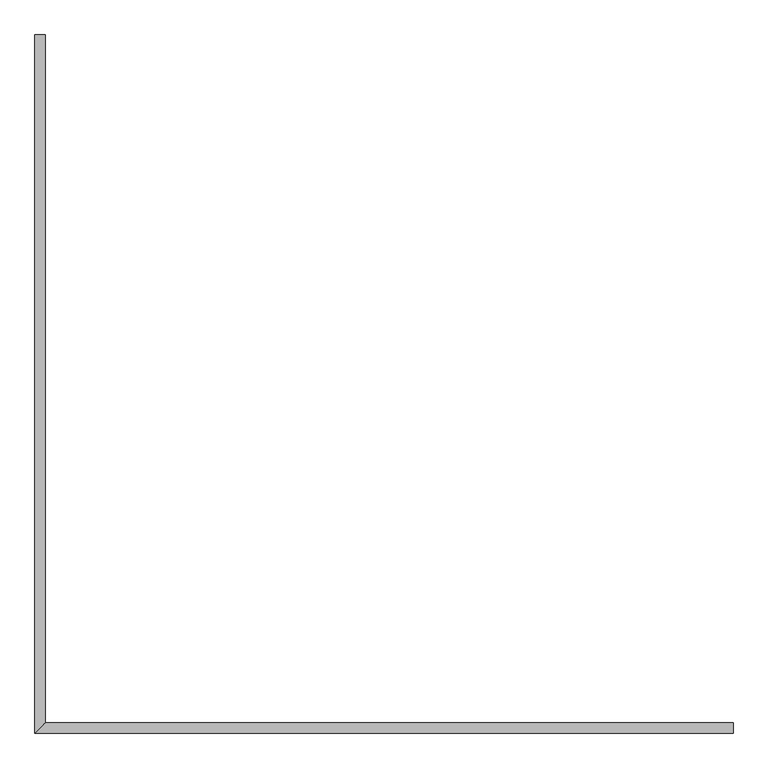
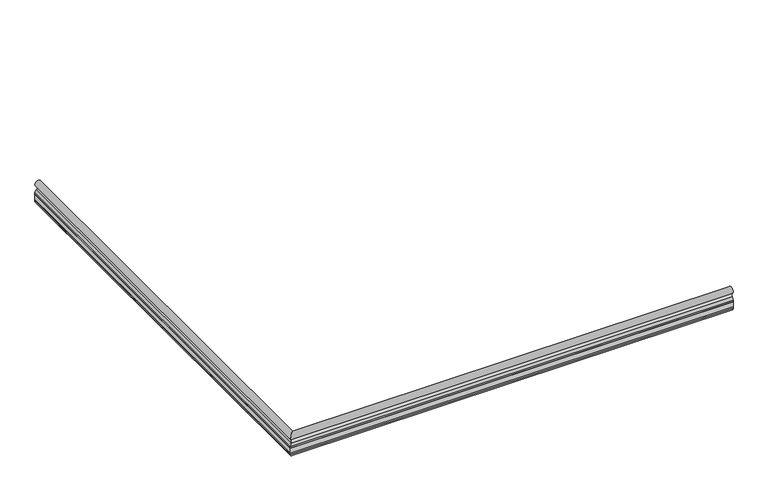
"""IFC4 building model written with IfcOpenShell, lengths in millimetres: railing geometry, Handrail-InPro-HR12-C-Prism-Metal_Bracket-Concrete."""

import ifcopenshell
import ifcopenshell.guid

model = None  # the IFC model being written
_history = None  # IfcOwnerHistory: only IFC2X3 demands one
_inside = {}  # id of a spatial element -> (the spatial element, [elements in it])
_under = {}  # id of a project, library or spatial element -> (it, [spatial elements below it])
_declared = {}  # id of a project -> (the project, [libraries it declares])
_typed = {}  # id of a type object -> (the type object, [elements of that type])
_made_of = {}  # id of a material, layer set ... -> (it, [elements and type objects made of it])


def new_model(schema):
    """Start an empty IFC model of exactly this schema.

    Asked for "IFC4X3", IfcOpenShell would pick the latest addendum, in which some entities
    have other attributes; the version numbers below select the first issue.
    IFC2X3 requires an IfcOwnerHistory on every rooted entity: one is made here for all.
    """
    global model, _history
    if schema == "IFC4X3":
        model = ifcopenshell.file(schema_version=(4, 3, 0, 0))
    else:
        model = ifcopenshell.file(schema=schema)
    _inside.clear()
    _under.clear()
    _declared.clear()
    _typed.clear()
    _made_of.clear()
    _history = None
    if model.schema == "IFC2X3":
        org = make("IfcOrganization", Name="unknown")
        user = make(
            "IfcPersonAndOrganization",
            ThePerson=make("IfcPerson", FamilyName="unknown"),
            TheOrganization=org,
        )
        app = make(
            "IfcApplication",
            ApplicationDeveloper=org,
            Version="unknown",
            ApplicationFullName="unknown",
            ApplicationIdentifier="unknown",
        )
        _history = make(
            "IfcOwnerHistory",
            OwningUser=user,
            OwningApplication=app,
            ChangeAction="ADDED",
            CreationDate=0,
        )
    return model


def make(cls, **values):
    """One entity of the class cls with the attributes given. An attribute that is None is left unset."""
    return model.create_entity(
        cls, **{name: value for name, value in values.items() if value is not None}
    )


def rooted(cls, **values):
    """An entity with a GlobalId (a new one), such as an element, a storey or a relation."""
    return make(cls, GlobalId=ifcopenshell.guid.new(), OwnerHistory=_history, **values)


def si_unit(unit_type, name, prefix=None):
    """IfcSIUnit, for example si_unit("LENGTHUNIT", "METRE", prefix="MILLI")."""
    return make("IfcSIUnit", UnitType=unit_type, Prefix=prefix, Name=name)


def assignment(units):
    """IfcUnitAssignment: the units of a project."""
    return None if units is None else make("IfcUnitAssignment", Units=units)


def point(xyz):
    """IfcCartesianPoint."""
    return None if xyz is None else make("IfcCartesianPoint", Coordinates=xyz)


def direction(xyz):
    """IfcDirection."""
    return None if xyz is None else make("IfcDirection", DirectionRatios=xyz)


def frame(location, z_axis=None, x_axis=None):
    """IfcAxis2Placement3D, a coordinate frame: its origin and axes. An axis left out is left unset."""
    return make(
        "IfcAxis2Placement3D",
        Location=point(location),
        Axis=direction(z_axis),
        RefDirection=direction(x_axis),
    )


def origin():
    """The frame at (0, 0, 0) with its axes left unset."""
    return frame((0.0, 0.0, 0.0))


def place(relative_to, where):
    """IfcLocalPlacement: puts the frame where relative to a parent placement (None: the world)."""
    return make(
        "IfcLocalPlacement", PlacementRelTo=relative_to, RelativePlacement=where
    )


def context(
    kind, dimensions, precision=None, world=None, true_north=None, identifier=None
):
    """IfcGeometricRepresentationContext, for example the 3D "Model" context."""
    return make(
        "IfcGeometricRepresentationContext",
        ContextIdentifier=identifier,
        ContextType=kind,
        CoordinateSpaceDimension=dimensions,
        Precision=precision,
        WorldCoordinateSystem=world,
        TrueNorth=true_north,
    )


def project(units=None, contexts=None):
    """IfcProject with its units and contexts."""
    return rooted(
        "IfcProject",
        Name="project",
        RepresentationContexts=contexts,
        UnitsInContext=assignment(units),
    )


def spatial(cls, under=None, at=None, **own):
    """A site, building, storey or space (cls), placed at a placement, below another one or the project."""
    s = rooted(cls, ObjectPlacement=at, **own)
    if under is not None:
        _under.setdefault(under.id(), (under, []))[1].append(s)
    return s


def polyline(points):
    """IfcPolyline through the points."""
    return make("IfcPolyline", Points=[point(p) for p in points])


def circle_curve(where, radius):
    """IfcCircle in the frame where."""
    return make("IfcCircle", Position=where, Radius=radius)


def ellipse_curve(where, semi_axis1, semi_axis2):
    """IfcEllipse in the frame where."""
    return make(
        "IfcEllipse", Position=where, SemiAxis1=semi_axis1, SemiAxis2=semi_axis2
    )


def faces_of(points, faces, orient=None, outer=None):
    """IfcFace entities. A face is a list of loops; a loop is a list of indices into points, from 0.

    orient and outer hold one flag for each loop. By default every Orientation is true, the
    first loop of a face is its IfcFaceOuterBound and the others are IfcFaceBound.
    """
    made = []
    for i, loops in enumerate(faces):
        bounds = []
        for j, loop in enumerate(loops):
            is_outer = j == 0 if outer is None else outer[i][j]
            bounds.append(
                make(
                    "IfcFaceOuterBound" if is_outer else "IfcFaceBound",
                    Bound=make("IfcPolyLoop", Polygon=[points[k] for k in loop]),
                    Orientation=True if orient is None else orient[i][j],
                )
            )
        made.append(make("IfcFace", Bounds=bounds))
    return made


def faceted_brep(points, faces, orient=None, outer=None, voids=None):
    """IfcFacetedBrep: a solid bounded by flat faces; with voids (closed shells), ...WithVoids."""
    shared = [point(p) for p in points]
    hull = make("IfcClosedShell", CfsFaces=faces_of(shared, faces, orient, outer))
    if voids is None:
        return make("IfcFacetedBrep", Outer=hull)
    return make(
        "IfcFacetedBrepWithVoids",
        Outer=hull,
        Voids=[
            make(cls, CfsFaces=faces_of(shared, fs, o, b)) for cls, fs, o, b in voids
        ],
    )


def shape(context_of_items, identifier, shape_type, items):
    """IfcShapeRepresentation: the items that make up one representation, for example the "Body"."""
    return make(
        "IfcShapeRepresentation",
        ContextOfItems=context_of_items,
        RepresentationIdentifier=identifier,
        RepresentationType=shape_type,
        Items=items,
    )


def source(mapping_origin, context_of_items, identifier, shape_type, items):
    """IfcRepresentationMap: a shape defined once, which mapped items show again and again."""
    return make(
        "IfcRepresentationMap",
        MappingOrigin=mapping_origin,
        MappedRepresentation=shape(context_of_items, identifier, shape_type, items),
    )


def transform(
    local_origin,
    x_axis=None,
    y_axis=None,
    z_axis=None,
    scale=None,
    scale2=None,
    scale3=None,
    uniform=True,
):
    """IfcCartesianTransformationOperator3D, or its non-uniform kind. x_axis, y_axis, z_axis: its Axis1, 2, 3."""
    if uniform:
        return make(
            "IfcCartesianTransformationOperator3D",
            Axis1=direction(x_axis),
            Axis2=direction(y_axis),
            LocalOrigin=point(local_origin),
            Scale=scale,
            Axis3=direction(z_axis),
        )
    return make(
        "IfcCartesianTransformationOperator3DnonUniform",
        Axis1=direction(x_axis),
        Axis2=direction(y_axis),
        LocalOrigin=point(local_origin),
        Scale=scale,
        Axis3=direction(z_axis),
        Scale2=scale2,
        Scale3=scale3,
    )


def mapped(mapping_source, mapping_target):
    """IfcMappedItem: shows the shape of a source again, moved by a transform."""
    return make(
        "IfcMappedItem", MappingSource=mapping_source, MappingTarget=mapping_target
    )


def made_of(thing, what):
    """Note that an element or type object is made of a material, layer set ...; save() writes the relation."""
    if what is not None:
        _made_of.setdefault(what.id(), (what, []))[1].append(thing)
    return thing


def element(
    cls,
    number,
    at=None,
    inside=None,
    cuts=None,
    type_object=None,
    material=None,
    context=None,
    identifier="Body",
    shape_type=None,
    held_by="IfcProductDefinitionShape",
    body=None,
    shapes=None,
    **own,
):
    """One element of the class cls, such as IfcWall. Its Tag is "e" and its number.

    at: its placement. inside: the storey or other place that contains it. cuts: it is an
    opening in that element (IfcRelVoidsElement). A single representation is given by context,
    identifier, shape_type and body (its items); several are given by shapes. held_by: the class
    of the entity that holds the representations. save() writes the other relations.
    """
    e = rooted(cls, Tag="e%d" % number, ObjectPlacement=at, **own)
    if body is not None:
        shapes = [shape(context, identifier, shape_type, body)]
    if shapes is not None:
        e.Representation = make(held_by, Representations=shapes)
    if inside is not None:
        _inside.setdefault(inside.id(), (inside, []))[1].append(e)
    if cuts is not None:
        rooted(
            "IfcRelVoidsElement", RelatingBuildingElement=cuts, RelatedOpeningElement=e
        )
    if type_object is not None:
        _typed.setdefault(type_object.id(), (type_object, []))[1].append(e)
    return made_of(e, material)


def aggregate(whole, parts):
    """IfcRelAggregates: a whole, such as a stair, and the parts it consists of."""
    return rooted("IfcRelAggregates", RelatingObject=whole, RelatedObjects=parts)


def save(model, path):
    """Write the relations noted so far, then the file.

    IfcRelAggregates (storeys below a building ...), IfcRelContainedInSpatialStructure (elements
    in a storey), IfcRelDefinesByType, IfcRelAssociatesMaterial and IfcRelDeclares: one each for
    every whole, place, type object, material and project.
    """
    for whole, parts in _under.values():
        aggregate(whole, parts)
    for where, things in _inside.values():
        rooted(
            "IfcRelContainedInSpatialStructure",
            RelatedElements=things,
            RelatingStructure=where,
        )
    for kind, things in _typed.values():
        rooted("IfcRelDefinesByType", RelatedObjects=things, RelatingType=kind)
    for what, things in _made_of.values():
        rooted("IfcRelAssociatesMaterial", RelatedObjects=things, RelatingMaterial=what)
    for by, libraries in _declared.values():
        rooted("IfcRelDeclares", RelatingContext=by, RelatedDefinitions=libraries)
    model.write(path)


def plane_surface(at):
    """IfcPlane: the flat surface through the origin of the frame at, square to its z axis."""
    return make("IfcPlane", Position=at)


def cylinder_surface(at, radius):
    """IfcCylindricalSurface: all points at the distance radius from the z axis of the frame at."""
    return make("IfcCylindricalSurface", Position=at, Radius=radius)


def revolved_surface(curve, axis_point, axis_direction):
    """IfcSurfaceOfRevolution: the curve turned about the line through axis_point along axis_direction."""
    return make(
        "IfcSurfaceOfRevolution",
        SweptCurve=make("IfcArbitraryOpenProfileDef", ProfileType="CURVE", Curve=curve),
        AxisPosition=make("IfcAxis1Placement", Location=point(axis_point), Axis=direction(axis_direction)),
    )


def advanced_brep(points, edges, surfaces, faces):
    """IfcAdvancedBrep: a solid bounded by faces that lie on surfaces and meet in shared edges.

    An edge is (start, end): straight between two places in points (the first is 0);
    or (start, end, curve); or (start, end, curve, False) where it runs against its curve.
    A face is (place in surfaces, loops), or (place, loops, False) where it looks against
    its surface's normal. A loop lists edges by number (the first is 1), with a minus sign
    where the edge is run from its end to its start. The first loop is the outer one.
    """
    corners = [point(p) for p in points]
    vertices = [make("IfcVertexPoint", VertexGeometry=c) for c in corners]
    made = []
    for start, end, *more in edges:
        made.append(
            make(
                "IfcEdgeCurve",
                EdgeStart=vertices[start],
                EdgeEnd=vertices[end],
                EdgeGeometry=more[0] if more else make("IfcPolyline", Points=[corners[start], corners[end]]),
                SameSense=more[1] if len(more) > 1 else True,
            )
        )
    hull = []
    for where, loops, *sense in faces:
        bounds = []
        for j, loop in enumerate(loops):
            ring = [make("IfcOrientedEdge", EdgeElement=made[abs(k) - 1], Orientation=k > 0) for k in loop]
            bounds.append(
                make(
                    "IfcFaceOuterBound" if j == 0 else "IfcFaceBound",
                    Bound=make("IfcEdgeLoop", EdgeList=ring),
                    Orientation=True,
                )
            )
        hull.append(make("IfcAdvancedFace", Bounds=bounds, FaceSurface=surfaces[where], SameSense=sense[0] if sense else True))
    return make("IfcAdvancedBrep", Outer=make("IfcClosedShell", CfsFaces=hull))


def railing_be0d8883(model_context):
    return source(origin(), model_context, "Body", "SolidModel", [
        advanced_brep(
        [(-5387.2882624, 4334.5443008, 774.7), (-5406.3382624, 4334.5443008, 793.75), (-5406.3382624, 4334.5443008, 801.6875), (-5399.9882624, 4334.5443008, 801.6875), (-5399.9882624, 4334.5443008, 834.628125), (-5406.3382624, 4334.5443008, 834.628125), (-5406.3382624, 4334.5443008, 842.9625), (-5398.3936731, 4334.5443008, 858.8375), (-5398.3936731, 4334.5443008, 879.871875), (-5376.1828517, 4334.5443008, 879.871875), (-5373.0007624, 4334.5443008, 863.203125), (-5368.2382624, 4334.5443008, 857.25), (-5368.2382624, 4334.5443008, 779.4625), (-5373.0007624, 4334.5443008, 774.7), (-5387.2882624, 1737.3943008, 774.7), (-5406.3382624, 1718.3443008, 793.75), (-5406.3382624, 1718.3443008, 801.6875), (-5399.9882624, 1724.6943008, 801.6875), (-5399.9882624, 1724.6943008, 834.628125), (-5406.3382624, 1718.3443008, 834.628125), (-5406.3382624, 1718.3443008, 842.9625), (-5398.3936731, 1726.2888901, 858.8375), (-5398.3936731, 1726.2888901, 879.871875), (-5376.1828517, 1748.4997115, 879.871875), (-5373.0007624, 1751.6818008, 863.203125), (-5368.2382624, 1756.4443008, 857.25), (-5368.2382624, 1756.4443008, 779.4625), (-5373.0007624, 1751.6818008, 774.7), (-2790.1382624, 1737.3943008, 774.7), (-2790.1382624, 1751.6818008, 774.7), (-2790.1382624, 1756.4443008, 779.4625), (-2790.1382624, 1756.4443008, 857.25), (-2790.1382624, 1751.6818008, 863.203125), (-2790.1382624, 1748.4997115, 879.871875), (-2790.1382624, 1726.2888901, 879.871875), (-2790.1382624, 1726.2888901, 858.8375), (-2790.1382624, 1718.3443008, 842.9625), (-2790.1382624, 1718.3443008, 834.628125), (-2790.1382624, 1724.6943008, 834.628125), (-2790.1382624, 1724.6943008, 801.6875), (-2790.1382624, 1718.3443008, 801.6875), (-2790.1382624, 1718.3443008, 793.75)],
        [
            (0, 1, circle_curve(frame((-5387.2882624, 4334.5443008, 793.75), z_axis=(0.0, 1.0, 0.0), x_axis=(-1.0, 0.0, 0.0)), 19.05)),
            (1, 2),
            (2, 3),
            (3, 4),
            (4, 5),
            (5, 6),
            (6, 7, circle_curve(frame((-5386.5051337, 4334.5443008, 842.9625), z_axis=(0.0, 1.0, 0.0), x_axis=(-1.0, 0.0, 0.0)), 19.8331287)),
            (7, 8, circle_curve(frame((-5405.5688296, 4334.5443008, 869.3546875), z_axis=(0.0, -1.0, 0.0), x_axis=(-1.0, 0.0, 0.0)), 12.7316183)),
            (8, 9, circle_curve(frame((-5387.2882624, 4334.5443008, 895.35), z_axis=(0.0, 1.0, 0.0), x_axis=(-1.0, 0.0, 0.0)), 19.05)),
            (9, 10, circle_curve(frame((-5370.1173629, 4334.5443008, 872.3916781), z_axis=(0.0, -1.0, 0.0), x_axis=(-1.0, 0.0, 0.0)), 9.6303427)),
            (10, 11, circle_curve(frame((-5375.0460741, 4334.5443008, 856.6853131), z_axis=(0.0, 1.0, 0.0), x_axis=(-1.0, 0.0, 0.0)), 6.8311911)),
            (11, 12),
            (12, 13, circle_curve(frame((-5373.0007624, 4334.5443008, 779.4625), z_axis=(0.0, 1.0, 0.0), x_axis=(-1.0, 0.0, 0.0)), 4.7625)),
            (13, 0),
            (0, 14),
            (14, 15, ellipse_curve(frame((-5387.2882624, 1737.3943008, 793.75), z_axis=(-0.7071067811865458, 0.7071067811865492, 0.0), x_axis=(0.7071067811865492, 0.7071067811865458, 0.0)), 26.9407684, 19.05)),
            (15, 1),
            (15, 16),
            (16, 2),
            (16, 17),
            (17, 3),
            (17, 18),
            (18, 4),
            (18, 19),
            (19, 5),
            (19, 20),
            (20, 6),
            (20, 21, ellipse_curve(frame((-5386.5051337, 1738.1774295, 842.9625), z_axis=(-0.7071067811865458, 0.7071067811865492, 0.0), x_axis=(0.7071067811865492, 0.7071067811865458, 0.0)), 28.0482796, 19.8331287)),
            (21, 7),
            (21, 22, ellipse_curve(frame((-5405.5688296, 1719.1137335, 869.3546875), z_axis=(0.7071067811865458, -0.7071067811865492, 0.0), x_axis=(-0.7071067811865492, -0.7071067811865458, 0.0)), 18.0052273, 12.7316183)),
            (22, 8),
            (22, 23, ellipse_curve(frame((-5387.2882624, 1737.3943008, 895.35), z_axis=(-0.7071067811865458, 0.7071067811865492, 0.0), x_axis=(0.7071067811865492, 0.7071067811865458, 0.0)), 26.9407684, 19.05)),
            (23, 9),
            (23, 24, ellipse_curve(frame((-5370.1173629, 1754.5652002, 872.3916781), z_axis=(0.7071067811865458, -0.7071067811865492, 0.0), x_axis=(-0.7071067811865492, -0.7071067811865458, 0.0)), 13.6193612, 9.6303427)),
            (24, 10),
            (24, 25, ellipse_curve(frame((-5375.0460741, 1749.6364891, 856.6853131), z_axis=(-0.7071067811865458, 0.7071067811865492, 0.0), x_axis=(0.7071067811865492, 0.7071067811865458, 0.0)), 9.6607631, 6.8311911)),
            (25, 11),
            (25, 26),
            (26, 12),
            (26, 27, ellipse_curve(frame((-5373.0007624, 1751.6818008, 779.4625), z_axis=(-0.7071067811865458, 0.7071067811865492, 0.0), x_axis=(0.7071067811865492, 0.7071067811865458, 0.0)), 6.7351921, 4.7625)),
            (27, 13),
            (27, 14),
            (28, 29),
            (29, 30, circle_curve(frame((-2790.1382624, 1751.6818008, 779.4625), z_axis=(1.0, 0.0, 0.0), x_axis=(0.0, -1.0, 0.0)), 4.7625)),
            (30, 31),
            (31, 32, circle_curve(frame((-2790.1382624, 1749.6364891, 856.6853131), z_axis=(1.0, 0.0, 0.0), x_axis=(0.0, -1.0, 0.0)), 6.8311911)),
            (32, 33, circle_curve(frame((-2790.1382624, 1754.5652002, 872.3916781), z_axis=(-1.0, 0.0, 0.0), x_axis=(0.0, -1.0, 0.0)), 9.6303427)),
            (33, 34, circle_curve(frame((-2790.1382624, 1737.3943008, 895.35), z_axis=(1.0, 0.0, 0.0), x_axis=(0.0, -1.0, 0.0)), 19.05)),
            (34, 35, circle_curve(frame((-2790.1382624, 1719.1137335, 869.3546875), z_axis=(-1.0, 0.0, 0.0), x_axis=(0.0, -1.0, 0.0)), 12.7316183)),
            (35, 36, circle_curve(frame((-2790.1382624, 1738.1774295, 842.9625), z_axis=(1.0, 0.0, 0.0), x_axis=(0.0, -1.0, 0.0)), 19.8331287)),
            (36, 37),
            (37, 38),
            (38, 39),
            (39, 40),
            (40, 41),
            (41, 28, circle_curve(frame((-2790.1382624, 1737.3943008, 793.75), z_axis=(1.0, 0.0, 0.0), x_axis=(0.0, -1.0, 0.0)), 19.05)),
            (14, 28),
            (41, 15),
            (40, 16),
            (39, 17),
            (38, 18),
            (37, 19),
            (36, 20),
            (35, 21),
            (34, 22),
            (33, 23),
            (32, 24),
            (31, 25),
            (30, 26),
            (29, 27),
        ],
        [
            plane_surface(frame((-5330.1382624, 4334.5443008, 914.4), z_axis=(0.0, 1.0, 0.0), x_axis=(0.0, 0.0, -1.0))),
            cylinder_surface(frame((-5387.2882624, 4334.5443008, 793.75), z_axis=(0.0, 1.0, 0.0), x_axis=(-1.0, 0.0, 0.0)), 19.05),
            plane_surface(frame((-5406.3382624, 4334.5443008, 793.75), z_axis=(-1.0, 0.0, 0.0), x_axis=(0.0, -1.0, 0.0))),
            plane_surface(frame((-5406.3382624, 4334.5443008, 801.6875), z_axis=(0.0, 0.0, 1.0), x_axis=(0.0, -1.0, 0.0))),
            plane_surface(frame((-5399.9882624, 4334.5443008, 801.6875), z_axis=(-1.0, 0.0, 0.0), x_axis=(0.0, -1.0, 0.0))),
            plane_surface(frame((-5399.9882624, 4334.5443008, 834.628125), z_axis=(0.0, 0.0, -1.0), x_axis=(0.0, -1.0, 0.0))),
            plane_surface(frame((-5406.3382624, 4334.5443008, 834.628125), z_axis=(-1.0, 0.0, 0.0), x_axis=(0.0, -1.0, 0.0))),
            cylinder_surface(frame((-5386.5051337, 4334.5443008, 842.9625), z_axis=(0.0, 1.0, 0.0), x_axis=(-1.0, 0.0, 0.0)), 19.8331287),
            revolved_surface(polyline([(-5418.3004479, 1706.382115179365, 869.3546875), (-5418.3004479, 4334.5443008, 869.3546875)]), (-5405.5688296, 4334.5443008, 869.3546875), (0.0, -1.0, 0.0)),
            cylinder_surface(frame((-5387.2882624, 4334.5443008, 895.35), z_axis=(0.0, 1.0, 0.0), x_axis=(-1.0, 0.0, 0.0)), 19.05),
            revolved_surface(polyline([(-5379.747705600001, 1744.9348575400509, 872.3916781), (-5379.747705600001, 4334.5443008, 872.3916781)]), (-5370.1173629, 4334.5443008, 872.3916781), (0.0, -1.0, 0.0)),
            cylinder_surface(frame((-5375.0460741, 4334.5443008, 856.6853131), z_axis=(0.0, 1.0, 0.0), x_axis=(-1.0, 0.0, 0.0)), 6.8311911),
            plane_surface(frame((-5368.2382624, 4334.5443008, 857.25), z_axis=(1.0, 0.0, 0.0), x_axis=(0.0, -1.0, 0.0))),
            cylinder_surface(frame((-5373.0007624, 4334.5443008, 779.4625), z_axis=(0.0, 1.0, 0.0), x_axis=(-1.0, 0.0, 0.0)), 4.7625),
            plane_surface(frame((-5373.0007624, 4334.5443008, 774.7), z_axis=(0.0, 0.0, -1.0), x_axis=(0.0, -1.0, 0.0))),
            plane_surface(frame((-2790.1382624, 1794.5443008, 914.4), z_axis=(1.0, 0.0, 0.0), x_axis=(0.0, 1.0, 0.0))),
            cylinder_surface(frame((-5330.1382624, 1737.3943008, 793.75), z_axis=(-1.0, 0.0, 0.0), x_axis=(0.0, -1.0, 0.0)), 19.05),
            plane_surface(frame((-5406.3382624, 1718.3443008, 793.75), z_axis=(0.0, -1.0, 0.0), x_axis=(1.0, 0.0, 0.0))),
            plane_surface(frame((-5406.3382624, 1718.3443008, 801.6875), z_axis=(0.0, 0.0, 1.0), x_axis=(1.0, 0.0, 0.0))),
            plane_surface(frame((-5399.9882624, 1724.6943008, 801.6875), z_axis=(0.0, -1.0, 0.0), x_axis=(1.0, 0.0, 0.0))),
            plane_surface(frame((-5399.9882624, 1724.6943008, 834.628125), z_axis=(0.0, 0.0, -1.0), x_axis=(1.0, 0.0, 0.0))),
            plane_surface(frame((-5406.3382624, 1718.3443008, 834.628125), z_axis=(0.0, -1.0, 0.0), x_axis=(1.0, 0.0, 0.0))),
            cylinder_surface(frame((-5330.1382624, 1738.1774295, 842.9625), z_axis=(-1.0, 0.0, 0.0), x_axis=(0.0, -1.0, 0.0)), 19.8331287),
            revolved_surface(polyline([(-2790.1382624, 1706.3821152, 869.3546875), (-5418.300447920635, 1706.3821152, 869.3546875)]), (-5330.1382624, 1719.1137335, 869.3546875), (1.0, 0.0, 0.0)),
            cylinder_surface(frame((-5330.1382624, 1737.3943008, 895.35), z_axis=(-1.0, 0.0, 0.0), x_axis=(0.0, -1.0, 0.0)), 19.05),
            revolved_surface(polyline([(-2790.1382624, 1744.9348575, 872.3916781), (-5379.747705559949, 1744.9348575, 872.3916781)]), (-5330.1382624, 1754.5652002, 872.3916781), (1.0, 0.0, 0.0)),
            cylinder_surface(frame((-5330.1382624, 1749.6364891, 856.6853131), z_axis=(-1.0, 0.0, 0.0), x_axis=(0.0, -1.0, 0.0)), 6.8311911),
            plane_surface(frame((-5368.2382624, 1756.4443008, 857.25), z_axis=(0.0, 1.0, 0.0), x_axis=(1.0, 0.0, 0.0))),
            cylinder_surface(frame((-5330.1382624, 1751.6818008, 779.4625), z_axis=(-1.0, 0.0, 0.0), x_axis=(0.0, -1.0, 0.0)), 4.7625),
            plane_surface(frame((-5373.0007624, 1751.6818008, 774.7), z_axis=(0.0, 0.0, -1.0), x_axis=(1.0, 0.0, 0.0))),
        ],
        [
            (0, [[1, 2, 3, 4, 5, 6, 7, 8, 9, 10, 11, 12, 13, 14]]),
            (1, [[-1, 15, 16, 17]]),
            (2, [[-2, -17, 18, 19]]),
            (3, [[-3, -19, 20, 21]]),
            (4, [[-4, -21, 22, 23]]),
            (5, [[-5, -23, 24, 25]]),
            (6, [[-6, -25, 26, 27]]),
            (7, [[-7, -27, 28, 29]]),
            (8, [[-8, -29, 30, 31]]),
            (9, [[-9, -31, 32, 33]]),
            (10, [[-10, -33, 34, 35]]),
            (11, [[-11, -35, 36, 37]]),
            (12, [[-12, -37, 38, 39]]),
            (13, [[-13, -39, 40, 41]]),
            (14, [[-14, -41, 42, -15]]),
            (15, [[43, 44, 45, 46, 47, 48, 49, 50, 51, 52, 53, 54, 55, 56]]),
            (16, [[-16, 57, -56, 58]]),
            (17, [[-18, -58, -55, 59]]),
            (18, [[-20, -59, -54, 60]]),
            (19, [[-22, -60, -53, 61]]),
            (20, [[-24, -61, -52, 62]]),
            (21, [[-26, -62, -51, 63]]),
            (22, [[-28, -63, -50, 64]]),
            (23, [[-30, -64, -49, 65]]),
            (24, [[-32, -65, -48, 66]]),
            (25, [[-34, -66, -47, 67]]),
            (26, [[-36, -67, -46, 68]]),
            (27, [[-38, -68, -45, 69]]),
            (28, [[-40, -69, -44, 70]]),
            (29, [[-42, -70, -43, -57]]),
        ],
    ),
        faceted_brep([(-5406.3382624, 4334.5443008, 801.6875), (-5406.3382624, 4334.5443008, 834.628125), (-5399.9882624, 4334.5443008, 834.628125), (-5399.9882624, 4334.5443008, 801.6875), (-5406.3382624, 1718.3443008, 801.6875), (-5406.3382624, 1718.3443008, 834.628125), (-5399.9882624, 1724.6943008, 834.628125), (-5399.9882624, 1724.6943008, 801.6875), (-2790.1382624, 1718.3443008, 801.6875), (-2790.1382624, 1724.6943008, 801.6875), (-2790.1382624, 1724.6943008, 834.628125), (-2790.1382624, 1718.3443008, 834.628125)], [[[0, 1, 2, 3]], [[1, 0, 4, 5]], [[2, 1, 5, 6]], [[3, 2, 6, 7]], [[0, 3, 7, 4]], [[8, 9, 10, 11]], [[5, 4, 8, 11]], [[6, 5, 11, 10]], [[7, 6, 10, 9]], [[4, 7, 9, 8]]]),
    ])


if __name__ == "__main__":
    model = new_model("IFC4")
    model_context = context("Model", 3, world=origin())
    ifc_project = project(units=[si_unit("LENGTHUNIT", "METRE", prefix="MILLI")], contexts=[model_context])
    site = spatial("IfcSite", under=ifc_project)
    building = spatial("IfcBuilding", under=site)
    placement = place(None, origin())
    railing_shape = railing_be0d8883(model_context)
    element("IfcRailing", 1, ObjectType="Handrail-InPro-HR12-C-Prism-Metal_Bracket-Concrete", at=placement, inside=building, context=model_context, shape_type="MappedRepresentation", body=[
        mapped(railing_shape, transform((0.0, 0.0, 0.0), x_axis=(1.0, 0.0, 0.0), y_axis=(0.0, 1.0, 0.0), z_axis=(0.0, 0.0, 1.0))),
    ])
    save(model, "model.ifc")
